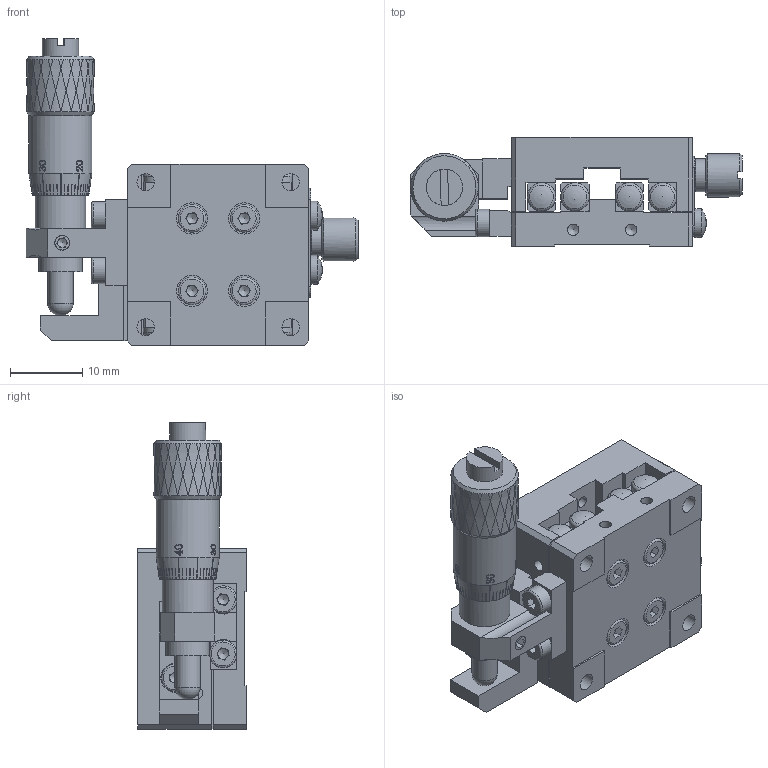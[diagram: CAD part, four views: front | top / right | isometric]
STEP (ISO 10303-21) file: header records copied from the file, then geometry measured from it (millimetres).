
FILE_DESCRIPTION (( 'STEP AP203' ), '1' );
FILE_NAME ('BPA25.STEP', '2024-07-23T08:00:29', ( 'Windows User' ), ( 'P R C' ), 'SwSTEP 2.0', 'SolidWorks 2024', '' );
FILE_SCHEMA (( 'CONFIG_CONTROL_DESIGN' ));
Length unit declared in the file: millimetre
Products named in the file (1): BPA25
Bounding box: 45.8 x 15 x 42.3 mm (x, y, z)
Volume: 10302 mm3; surface area: 11887 mm2
Topology: 27 solids, 27 shells, 1165 faces, 2760 edges, 1758 vertices
Faces by surface type: plane 460, bspline 295, cylinder 244, cone 135, torus 29, sphere 2
Full cylindrical faces by diameter (mm): 1.6 x25, 1.65 x8, 2 x15, 2.05 x1, 2.2 x4, 2.4 x12, 2.5 x3, 3 x8, 3.5 x2, 3.8 x12, 3.9 x8, 4 x8, 4.3 x8, 4.5 x1, 5 x2, 6 x3, 7 x2, 8.7 x1
Entity records: 45303 total; most frequent: CARTESIAN_POINT 22358, ORIENTED_EDGE 4948, DIRECTION 3655, EDGE_CURVE 2474, VERTEX_POINT 1691, EDGE_LOOP 1567, AXIS2_PLACEMENT_3D 1411, FACE_OUTER_BOUND 1311
